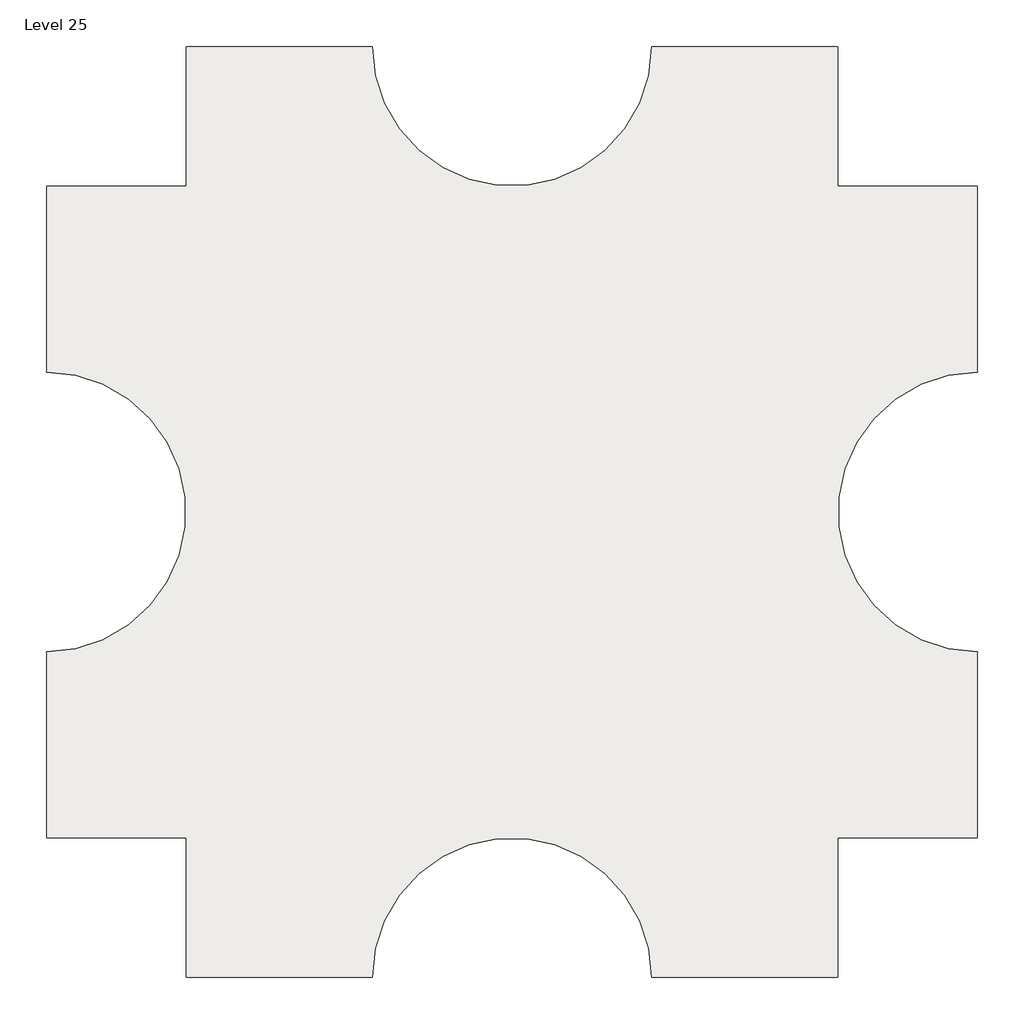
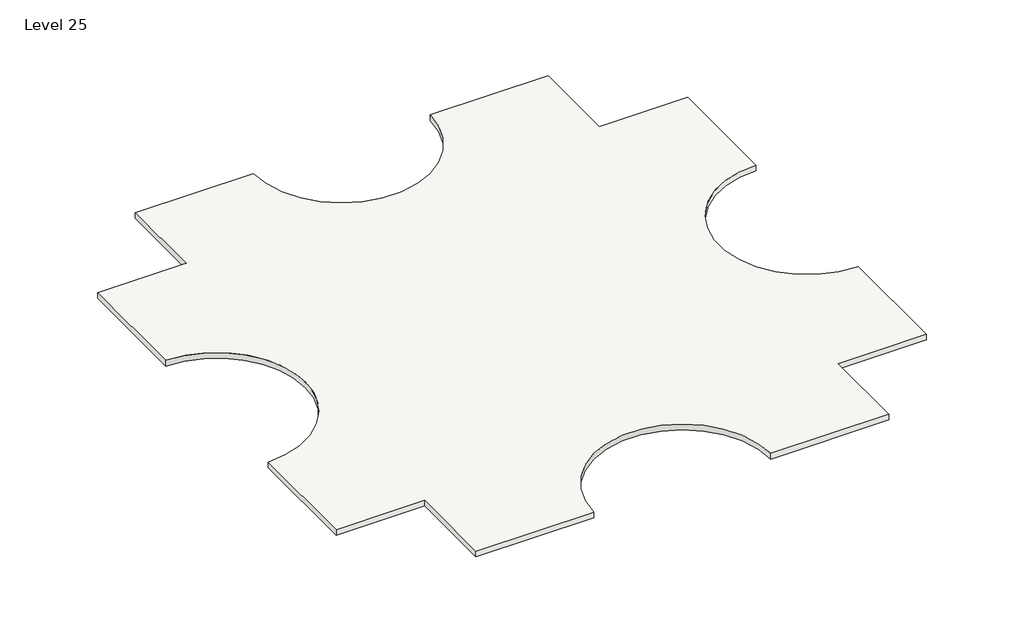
# One storey: 2 slabs.
"""IFC4 building model written with IfcOpenShell, lengths in millimetres."""

import ifcopenshell
import ifcopenshell.guid

model = None  # the IFC model being written
_history = None  # IfcOwnerHistory: only IFC2X3 demands one
_inside = {}  # id of a spatial element -> (the spatial element, [elements in it])
_under = {}  # id of a project, library or spatial element -> (it, [spatial elements below it])
_declared = {}  # id of a project -> (the project, [libraries it declares])
_typed = {}  # id of a type object -> (the type object, [elements of that type])
_made_of = {}  # id of a material, layer set ... -> (it, [elements and type objects made of it])


def new_model(schema):
    """Start an empty IFC model of exactly this schema.

    Asked for "IFC4X3", IfcOpenShell would pick the latest addendum, in which some entities
    have other attributes; the version numbers below select the first issue.
    IFC2X3 requires an IfcOwnerHistory on every rooted entity: one is made here for all.
    """
    global model, _history
    if schema == "IFC4X3":
        model = ifcopenshell.file(schema_version=(4, 3, 0, 0))
    else:
        model = ifcopenshell.file(schema=schema)
    _inside.clear()
    _under.clear()
    _declared.clear()
    _typed.clear()
    _made_of.clear()
    _history = None
    if model.schema == "IFC2X3":
        org = make("IfcOrganization", Name="unknown")
        user = make(
            "IfcPersonAndOrganization",
            ThePerson=make("IfcPerson", FamilyName="unknown"),
            TheOrganization=org,
        )
        app = make(
            "IfcApplication",
            ApplicationDeveloper=org,
            Version="unknown",
            ApplicationFullName="unknown",
            ApplicationIdentifier="unknown",
        )
        _history = make(
            "IfcOwnerHistory",
            OwningUser=user,
            OwningApplication=app,
            ChangeAction="ADDED",
            CreationDate=0,
        )
    return model


def make(cls, **values):
    """One entity of the class cls with the attributes given. An attribute that is None is left unset."""
    return model.create_entity(
        cls, **{name: value for name, value in values.items() if value is not None}
    )


def rooted(cls, **values):
    """An entity with a GlobalId (a new one), such as an element, a storey or a relation."""
    return make(cls, GlobalId=ifcopenshell.guid.new(), OwnerHistory=_history, **values)


def si_unit(unit_type, name, prefix=None):
    """IfcSIUnit, for example si_unit("LENGTHUNIT", "METRE", prefix="MILLI")."""
    return make("IfcSIUnit", UnitType=unit_type, Prefix=prefix, Name=name)


def assignment(units):
    """IfcUnitAssignment: the units of a project."""
    return None if units is None else make("IfcUnitAssignment", Units=units)


def point(xyz):
    """IfcCartesianPoint."""
    return None if xyz is None else make("IfcCartesianPoint", Coordinates=xyz)


def direction(xyz):
    """IfcDirection."""
    return None if xyz is None else make("IfcDirection", DirectionRatios=xyz)


def frame(location, z_axis=None, x_axis=None):
    """IfcAxis2Placement3D, a coordinate frame: its origin and axes. An axis left out is left unset."""
    return make(
        "IfcAxis2Placement3D",
        Location=point(location),
        Axis=direction(z_axis),
        RefDirection=direction(x_axis),
    )


def frame_2d(location, x_axis=None):
    """IfcAxis2Placement2D, a coordinate frame in the plane: its origin and x axis."""
    return make(
        "IfcAxis2Placement2D", Location=point(location), RefDirection=direction(x_axis)
    )


def origin():
    """The frame at (0, 0, 0) with its axes left unset."""
    return frame((0.0, 0.0, 0.0))


def place(relative_to, where):
    """IfcLocalPlacement: puts the frame where relative to a parent placement (None: the world)."""
    return make(
        "IfcLocalPlacement", PlacementRelTo=relative_to, RelativePlacement=where
    )


def context(
    kind, dimensions, precision=None, world=None, true_north=None, identifier=None
):
    """IfcGeometricRepresentationContext, for example the 3D "Model" context."""
    return make(
        "IfcGeometricRepresentationContext",
        ContextIdentifier=identifier,
        ContextType=kind,
        CoordinateSpaceDimension=dimensions,
        Precision=precision,
        WorldCoordinateSystem=world,
        TrueNorth=true_north,
    )


def project(units=None, contexts=None):
    """IfcProject with its units and contexts."""
    return rooted(
        "IfcProject",
        Name="project",
        RepresentationContexts=contexts,
        UnitsInContext=assignment(units),
    )


def spatial(cls, under=None, at=None, **own):
    """A site, building, storey or space (cls), placed at a placement, below another one or the project."""
    s = rooted(cls, ObjectPlacement=at, **own)
    if under is not None:
        _under.setdefault(under.id(), (under, []))[1].append(s)
    return s


def polyline(points):
    """IfcPolyline through the points."""
    return make("IfcPolyline", Points=[point(p) for p in points])


def circle_curve(where, radius):
    """IfcCircle in the frame where."""
    return make("IfcCircle", Position=where, Radius=radius)


def trimmed(basis, trim1, trim2, sense, master):
    """IfcTrimmedCurve: the piece of a basis curve between two trims."""
    return make(
        "IfcTrimmedCurve",
        BasisCurve=basis,
        Trim1=trim1,
        Trim2=trim2,
        SenseAgreement=sense,
        MasterRepresentation=master,
    )


def segment(curve, same_sense, transition):
    """IfcCompositeCurveSegment."""
    return make(
        "IfcCompositeCurveSegment",
        Transition=transition,
        SameSense=same_sense,
        ParentCurve=curve,
    )


def composite_curve(segments, self_intersect=None):
    """IfcCompositeCurve: segments joined end to end."""
    return make("IfcCompositeCurve", Segments=segments, SelfIntersect=self_intersect)


def outline(outer, holes=None, kind="AREA"):
    """IfcArbitraryClosedProfileDef: a profile drawn as a closed curve; with holes, ...WithVoids."""
    if holes is None:
        return make("IfcArbitraryClosedProfileDef", ProfileType=kind, OuterCurve=outer)
    return make(
        "IfcArbitraryProfileDefWithVoids",
        ProfileType=kind,
        OuterCurve=outer,
        InnerCurves=holes,
    )


def extrude(swept, where, along, depth):
    """IfcExtrudedAreaSolid: the profile swept, set in the frame where, extruded along a direction by depth."""
    return make(
        "IfcExtrudedAreaSolid",
        SweptArea=swept,
        Position=where,
        ExtrudedDirection=direction(along),
        Depth=depth,
    )


def shape(context_of_items, identifier, shape_type, items):
    """IfcShapeRepresentation: the items that make up one representation, for example the "Body"."""
    return make(
        "IfcShapeRepresentation",
        ContextOfItems=context_of_items,
        RepresentationIdentifier=identifier,
        RepresentationType=shape_type,
        Items=items,
    )


def made_of(thing, what):
    """Note that an element or type object is made of a material, layer set ...; save() writes the relation."""
    if what is not None:
        _made_of.setdefault(what.id(), (what, []))[1].append(thing)
    return thing


def element(
    cls,
    number,
    at=None,
    inside=None,
    cuts=None,
    type_object=None,
    material=None,
    context=None,
    identifier="Body",
    shape_type=None,
    held_by="IfcProductDefinitionShape",
    body=None,
    shapes=None,
    **own,
):
    """One element of the class cls, such as IfcWall. Its Tag is "e" and its number.

    at: its placement. inside: the storey or other place that contains it. cuts: it is an
    opening in that element (IfcRelVoidsElement). A single representation is given by context,
    identifier, shape_type and body (its items); several are given by shapes. held_by: the class
    of the entity that holds the representations. save() writes the other relations.
    """
    e = rooted(cls, Tag="e%d" % number, ObjectPlacement=at, **own)
    if body is not None:
        shapes = [shape(context, identifier, shape_type, body)]
    if shapes is not None:
        e.Representation = make(held_by, Representations=shapes)
    if inside is not None:
        _inside.setdefault(inside.id(), (inside, []))[1].append(e)
    if cuts is not None:
        rooted(
            "IfcRelVoidsElement", RelatingBuildingElement=cuts, RelatedOpeningElement=e
        )
    if type_object is not None:
        _typed.setdefault(type_object.id(), (type_object, []))[1].append(e)
    return made_of(e, material)


def aggregate(whole, parts):
    """IfcRelAggregates: a whole, such as a stair, and the parts it consists of."""
    return rooted("IfcRelAggregates", RelatingObject=whole, RelatedObjects=parts)


def save(model, path):
    """Write the relations noted so far, then the file.

    IfcRelAggregates (storeys below a building ...), IfcRelContainedInSpatialStructure (elements
    in a storey), IfcRelDefinesByType, IfcRelAssociatesMaterial and IfcRelDeclares: one each for
    every whole, place, type object, material and project.
    """
    for whole, parts in _under.values():
        aggregate(whole, parts)
    for where, things in _inside.values():
        rooted(
            "IfcRelContainedInSpatialStructure",
            RelatedElements=things,
            RelatingStructure=where,
        )
    for kind, things in _typed.values():
        rooted("IfcRelDefinesByType", RelatedObjects=things, RelatingType=kind)
    for what, things in _made_of.values():
        rooted("IfcRelAssociatesMaterial", RelatedObjects=things, RelatingMaterial=what)
    for by, libraries in _declared.values():
        rooted("IfcRelDeclares", RelatingContext=by, RelatedDefinitions=libraries)
    model.write(path)


model = new_model("IFC4")

# Units and contexts
model_context = context("Model", 3, world=origin())
ifc_project = project(units=[si_unit("LENGTHUNIT", "METRE", prefix="MILLI")], contexts=[model_context])

# Site, building, storey
site = spatial("IfcSite", under=ifc_project)
building = spatial("IfcBuilding", under=site)
storey = spatial("IfcBuildingStorey", under=building, Name="Level 25", Elevation=73152.0)

# Slabs
placement = place(None, origin())
element("IfcSlab", 1, ObjectType="Generic - 12\"", at=placement, inside=storey, context=model_context, shape_type="SweptSolid", body=[
    extrude(outline(composite_curve([segment(polyline([(-7150.3629456, 4479.6634547), (-7150.3629456, 9051.6634547), (-1054.3629456, 9051.6634547)]), True, "CONTINUOUS"), segment(trimmed(circle_curve(frame_2d((3517.6370544, 9051.6634547)), 4572.0), [point((-1054.3629456, 9051.6634547))], [point((8089.6370544, 9051.6634547))], True, "CARTESIAN"), True, "CONTINUOUS"), segment(polyline([(8089.6370544, 9051.6634547), (14185.6370544, 9051.6634547), (14185.6370544, 4479.6634547), (18757.6370544, 4479.6634547), (18757.6370544, -1616.3365453)]), True, "CONTINUOUS"), segment(trimmed(circle_curve(frame_2d((18757.6370544, -6188.3365453)), 4572.0), [point((18757.6370544, -1616.3365453))], [point((18757.6370544, -10760.3365453))], True, "CARTESIAN"), True, "CONTINUOUS"), segment(polyline([(18757.6370544, -10760.3365453), (18757.6370544, -16856.3365453), (14185.6370544, -16856.3365453), (14185.6370544, -21428.3365453), (8089.6370544, -21428.3365453)]), True, "CONTINUOUS"), segment(trimmed(circle_curve(frame_2d((3517.6370544, -21428.3365453)), 4572.0), [point((8089.6370544, -21428.3365453))], [point((-1054.3629456, -21428.3365453))], True, "CARTESIAN"), True, "CONTINUOUS"), segment(polyline([(-1054.3629456, -21428.3365453), (-7150.3629456, -21428.3365453), (-7150.3629456, -16856.3365453), (-11722.3629456, -16856.3365453), (-11722.3629456, -10760.3365453)]), True, "CONTINUOUS"), segment(trimmed(circle_curve(frame_2d((-11722.3629456, -6188.3365453)), 4572.0), [point((-11722.3629456, -10760.3365453))], [point((-11722.3629456, -1616.3365453))], True, "CARTESIAN"), True, "CONTINUOUS"), segment(polyline([(-11722.3629456, -1616.3365453), (-11722.3629456, 4479.6634547), (-7150.3629456, 4479.6634547)]), True, "CONTINUOUS")], self_intersect=False)), frame((0.0, 0.0, 72847.2), z_axis=(0.0, 0.0, 1.0), x_axis=(1.0, 0.0, 0.0)), (0.0, 0.0, 1.0), 304.8),
])
element("IfcSlab", 2, ObjectType="Generic - 12\"", at=placement, inside=storey, context=model_context, shape_type="SweptSolid", body=[
    extrude(outline(composite_curve([segment(polyline([(-7150.3629456, 4479.6634547), (-7150.3629456, 9051.6634547), (-1054.3629456, 9051.6634547)]), True, "CONTINUOUS"), segment(trimmed(circle_curve(frame_2d((3517.6370544, 9051.6634547)), 4572.0), [point((-1054.3629456, 9051.6634547))], [point((8089.6370544, 9051.6634547))], True, "CARTESIAN"), True, "CONTINUOUS"), segment(polyline([(8089.6370544, 9051.6634547), (14185.6370544, 9051.6634547), (14185.6370544, 4479.6634547), (18757.6370544, 4479.6634547), (18757.6370544, -1616.3365453)]), True, "CONTINUOUS"), segment(trimmed(circle_curve(frame_2d((18757.6370544, -6188.3365453)), 4572.0), [point((18757.6370544, -1616.3365453))], [point((18757.6370544, -10760.3365453))], True, "CARTESIAN"), True, "CONTINUOUS"), segment(polyline([(18757.6370544, -10760.3365453), (18757.6370544, -16856.3365453), (14185.6370544, -16856.3365453), (14185.6370544, -21428.3365453), (8089.6370544, -21428.3365453)]), True, "CONTINUOUS"), segment(trimmed(circle_curve(frame_2d((3517.6370544, -21428.3365453)), 4572.0), [point((8089.6370544, -21428.3365453))], [point((-1054.3629456, -21428.3365453))], True, "CARTESIAN"), True, "CONTINUOUS"), segment(polyline([(-1054.3629456, -21428.3365453), (-7150.3629456, -21428.3365453), (-7150.3629456, -16856.3365453), (-11722.3629456, -16856.3365453), (-11722.3629456, -10760.3365453)]), True, "CONTINUOUS"), segment(trimmed(circle_curve(frame_2d((-11722.3629456, -6188.3365453)), 4572.0), [point((-11722.3629456, -10760.3365453))], [point((-11722.3629456, -1616.3365453))], True, "CARTESIAN"), True, "CONTINUOUS"), segment(polyline([(-11722.3629456, -1616.3365453), (-11722.3629456, 4479.6634547), (-7150.3629456, 4479.6634547)]), True, "CONTINUOUS")], self_intersect=False)), frame((0.0, 0.0, 72847.2), z_axis=(0.0, 0.0, 1.0), x_axis=(1.0, 0.0, 0.0)), (0.0, 0.0, 1.0), 304.8),
])

save(model, "model.ifc")
